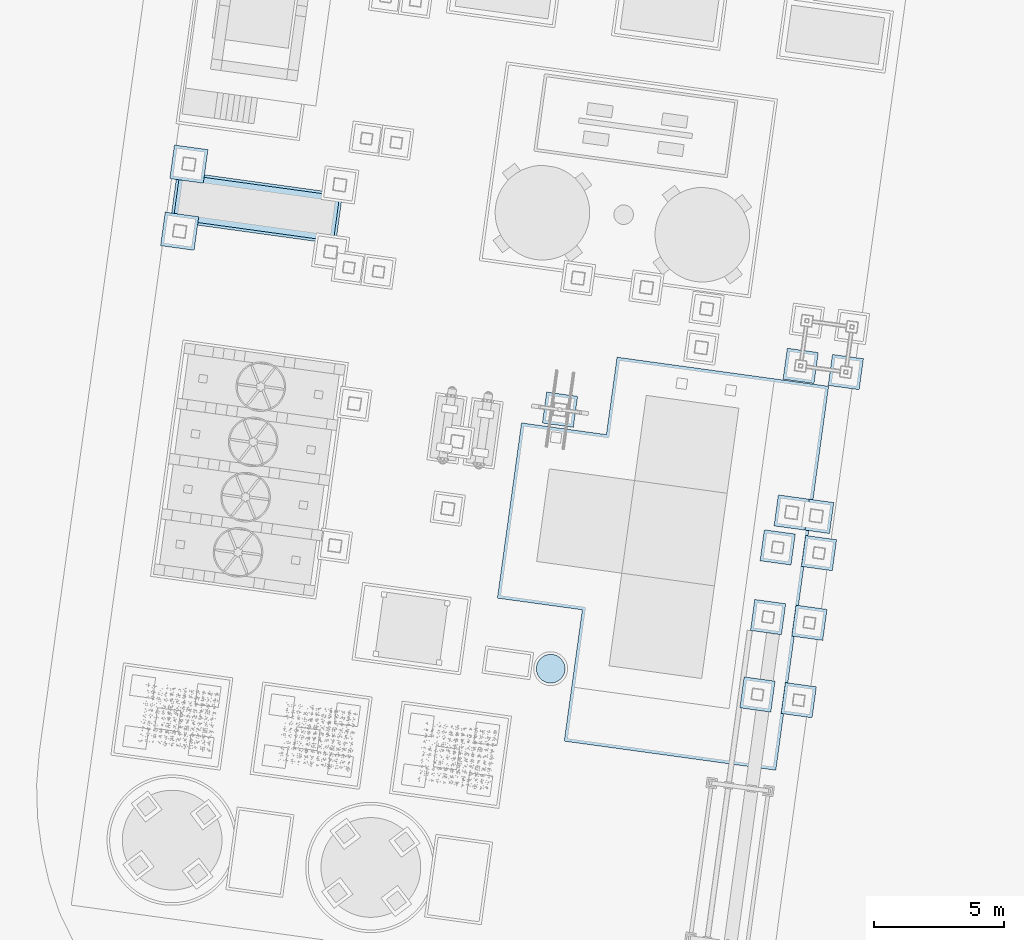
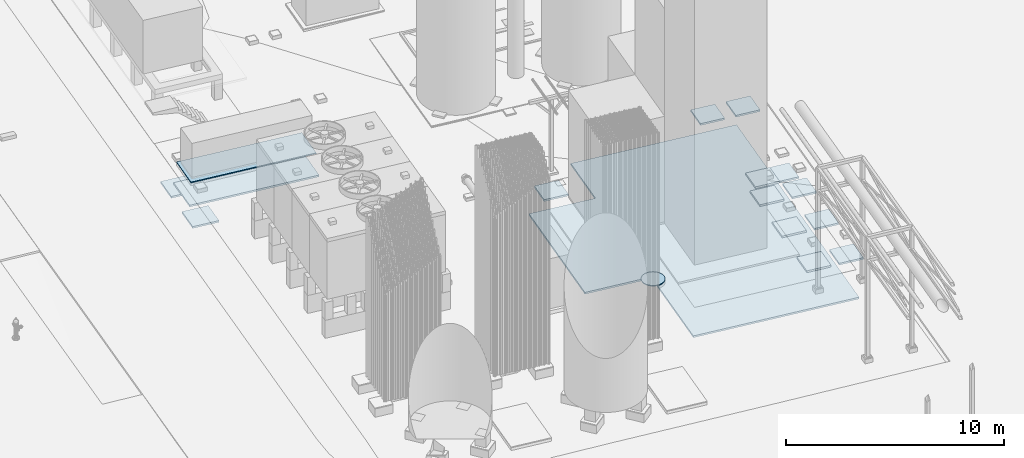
# Not in any storey, part 16 of 75: 17 slabs.
"""IFC4 model written with IfcOpenShell, lengths in metres."""

from ifc_helpers import new_model, si_unit, direction, origin, origin_with_axes, place, context, subcontext, project, spatial, triangles, material, element, save


model = new_model("IFC4")

# Units and contexts
model_context = context("Model", 3, precision=1e-05, world=origin_with_axes(), true_north=direction((0.0, 1.0)))
body_context = subcontext(model_context, "Body", "Model", "MODEL_VIEW")
ifc_project = project(units=[si_unit("AREAUNIT", "SQUARE_METRE"), si_unit("VOLUMEUNIT", "CUBIC_METRE"), si_unit("LENGTHUNIT", "METRE")], contexts=[model_context])

# Site
site_placement = place(None, origin_with_axes())
site = spatial("IfcSite", under=ifc_project, at=site_placement, Name="Parcela industrial Jinhong")

# Slabs
ifc_material_1 = material(Name="Hormigón de limpieza HA-20", Category="Material documentado")
slab_1_placement = place(None, origin())
element("IfcSlab", 1, at=slab_1_placement, inside=site, material=ifc_material_1, Name="Cimentación de las cajas frías · capa de limpieza", ObjectType="Cimentación industrial", PredefinedType="USERDEFINED", context=body_context, shape_type="Tessellation", body=[
    triangles([(52.123171, 41.356737, -0.5), (48.863831, 41.804848, -0.5), (49.788656, 48.53157, -0.5), (53.047996, 48.083459, -0.5), (53.456608, 51.055502, -0.5), (61.58019, 49.93863, -0.5), (59.553476, 35.197299, -0.5), (51.429893, 36.314171, -0.5), (52.123171, 41.356737, -0.4), (48.863831, 41.804848, -0.4), (49.788656, 48.53157, -0.4), (53.047996, 48.083459, -0.4), (53.456608, 51.055502, -0.4), (61.58019, 49.93863, -0.4), (59.553476, 35.197299, -0.4), (51.429893, 36.314171, -0.4)], [[1, 2, 3], [4, 5, 6], [1, 7, 8], [1, 3, 4], [7, 1, 6], [1, 4, 6], [11, 10, 9], [14, 13, 12], [16, 15, 9], [12, 11, 9], [14, 9, 15], [14, 12, 9], [9, 10, 1], [1, 10, 2], [10, 11, 2], [2, 11, 3], [11, 12, 3], [3, 12, 4], [12, 13, 4], [4, 13, 5], [13, 14, 5], [5, 14, 6], [14, 15, 6], [6, 15, 7], [16, 9, 8], [8, 9, 1], [15, 16, 7], [7, 16, 8]], closed=True),
])
ifc_material_2 = material(Name="Mortero HA-35 de alta resistencia sin retracción", Category="Material documentado")
slab_2_placement = place(None, origin())
element("IfcSlab", 2, at=slab_2_placement, inside=site, material=ifc_material_2, Name="Cimentación del evaporador de residuos · apoyo circular · mortero superior de 50 mm", ObjectType="Cimentación industrial", PredefinedType="USERDEFINED", context=body_context, shape_type="Tessellation", body=[
    triangles([(51.451135, 39.003477, 1.25), (51.447812, 38.985789, 1.25), (51.443912, 38.968218, 1.25), (51.428794, 38.916405, 1.25), (51.439438, 38.950785, 1.25), (51.434398, 38.933508, 1.25), (51.422634, 38.899494, 1.25), (51.400882, 38.850096, 1.25), (51.415923, 38.882793, 1.25), (51.40867, 38.866322, 1.25), (51.383734, 38.818453, 1.25), (51.392567, 38.834134, 1.25), (51.364554, 38.787999, 1.25), (51.374394, 38.803069, 1.25), (51.354226, 38.773258, 1.25), (51.343423, 38.758863, 1.25), (51.332154, 38.74483, 1.25), (51.320431, 38.731174, 1.25), (51.308268, 38.717908, 1.25), (51.295678, 38.705047, 1.25), (51.282673, 38.692604, 1.25), (51.269269, 38.680594, 1.25), (51.255479, 38.66903, 1.25), (51.211943, 38.637126, 1.25), (51.241317, 38.657922, 1.25), (51.2268, 38.647283, 1.25), (51.165488, 38.609643, 1.25), (51.196761, 38.62746, 1.25), (51.18127, 38.618295, 1.25), (51.116566, 38.586846, 1.25), (51.149432, 38.601511, 1.25), (51.133119, 38.593909, 1.25), (51.048309, 38.564111, 1.25), (51.099789, 38.580327, 1.25), (51.082808, 38.574361, 1.25), (51.065643, 38.568953, 1.25), (51.013211, 38.556139, 1.25), (51.030825, 38.559838, 1.25), (50.977668, 38.55048, 1.25), (50.995486, 38.553018, 1.25), (50.94183, 38.547158, 1.25), (50.959777, 38.548525, 1.25), (50.851959, 38.549143, 1.25), (50.92385, 38.546378, 1.25), (50.887859, 38.546584, 1.25), (50.905853, 38.546186, 1.25), (50.869888, 38.54757, 1.25), (50.834092, 38.551302, 1.25), (50.816304, 38.554045, 1.25), (50.798616, 38.557368, 1.25), (50.781045, 38.561269, 1.25), (50.763612, 38.565742, 1.25), (50.746334, 38.570783, 1.25), (50.662923, 38.604299, 1.25), (50.712321, 38.582547, 1.25), (50.69562, 38.589257, 1.25), (50.679148, 38.59651, 1.25), (50.63128, 38.621446, 1.25), (50.646961, 38.612613, 1.25), (50.586086, 38.650954, 1.25), (50.615896, 38.630787, 1.25), (50.600825, 38.640626, 1.25), (50.544, 38.684749, 1.25), (50.571691, 38.661758, 1.25), (50.557657, 38.673027, 1.25), (50.530735, 38.696912, 1.25), (50.493422, 38.735912, 1.25), (50.517873, 38.709502, 1.25), (50.505431, 38.722507, 1.25), (50.470749, 38.763864, 1.25), (50.481856, 38.749702, 1.25), (50.449953, 38.793238, 1.25), (50.46011, 38.778381, 1.25), (50.42247, 38.839692, 1.25), (50.440286, 38.80842, 1.25), (50.431122, 38.823911, 1.25), (50.414338, 38.855748, 1.25), (50.406737, 38.872062, 1.25), (50.387188, 38.922372, 1.25), (50.399673, 38.888615, 1.25), (50.393154, 38.905391, 1.25), (50.376938, 38.956873, 1.25), (50.365846, 39.009695, 1.25), (50.381781, 38.939538, 1.25), (50.368966, 38.99197, 1.25), (50.372664, 38.974356, 1.25), (50.359985, 39.06335, 1.25), (50.363307, 39.027513, 1.25), (50.361352, 39.045405, 1.25), (50.36413, 39.171089, 1.25), (50.359204, 39.081331, 1.25), (50.35941, 39.117321, 1.25), (50.359013, 39.099328, 1.25), (50.360396, 39.135292, 1.25), (50.36197, 39.153221, 1.25), (50.370195, 39.206565, 1.25), (50.366872, 39.188877, 1.25), (50.374096, 39.224135, 1.25), (50.378569, 39.241569, 1.25), (50.38361, 39.258846, 1.25), (50.402085, 39.30956, 1.25), (50.389214, 39.275949, 1.25), (50.395373, 39.29286, 1.25), (51.217182, 39.551727, 1.25), (50.606065, 39.555228, 1.25), (50.434273, 39.373901, 1.25), (50.417125, 39.342257, 1.25), (50.42544, 39.35822, 1.25), (50.409338, 39.326032, 1.25), (50.443614, 39.389285, 1.25), (50.474585, 39.433489, 1.25), (50.453454, 39.404355, 1.25), (50.463781, 39.419096, 1.25), (50.485854, 39.447523, 1.25), (50.497576, 39.46118, 1.25), (50.509739, 39.474446, 1.25), (50.522329, 39.487307, 1.25), (50.535334, 39.49975, 1.25), (50.57669, 39.534432, 1.25), (50.548739, 39.51176, 1.25), (50.562528, 39.523324, 1.25), (50.591208, 39.545071, 1.25), (50.636737, 39.574059, 1.25), (50.621247, 39.564894, 1.25), (50.652519, 39.582711, 1.25), (50.701443, 39.605508, 1.25), (50.668575, 39.590843, 1.25), (50.684888, 39.598445, 1.25), (50.735199, 39.617992, 1.25), (50.718219, 39.612026, 1.25), (50.769699, 39.628243, 1.25), (50.752365, 39.623401, 1.25), (50.804796, 39.636215, 1.25), (50.787182, 39.632516, 1.25), (50.840339, 39.641874, 1.25), (50.822521, 39.639335, 1.25), (50.858231, 39.643829, 1.25), (50.983916, 39.641051, 1.25), (50.894158, 39.645976, 1.25), (50.930148, 39.64577, 1.25), (50.912154, 39.646168, 1.25), (50.948119, 39.644784, 1.25), (50.966048, 39.643211, 1.25), (51.019392, 39.634985, 1.25), (51.001703, 39.638309, 1.25), (51.036962, 39.631085, 1.25), (51.054395, 39.626612, 1.25), (51.071673, 39.621571, 1.25), (51.122387, 39.603097, 1.25), (51.088776, 39.615967, 1.25), (51.105687, 39.609807, 1.25), (51.155084, 39.588055, 1.25), (51.138859, 39.595844, 1.25), (51.186728, 39.570907, 1.25), (51.171046, 39.579741, 1.25), (51.202113, 39.561567, 1.25), (51.246317, 39.530595, 1.25), (51.231923, 39.5414, 1.25), (51.274007, 39.507605, 1.25), (51.26035, 39.519327, 1.25), (51.287273, 39.495442, 1.25), (51.300134, 39.482851, 1.25), (51.312576, 39.469847, 1.25), (51.347259, 39.42849, 1.25), (51.324586, 39.456442, 1.25), (51.336151, 39.442652, 1.25), (51.377721, 39.383934, 1.25), (51.357897, 39.413973, 1.25), (51.368056, 39.399116, 1.25), (51.386885, 39.368443, 1.25), (51.395537, 39.352662, 1.25), (51.418335, 39.303738, 1.25), (51.403669, 39.336606, 1.25), (51.411271, 39.320292, 1.25), (51.424853, 39.286963, 1.25), (51.441069, 39.235481, 1.25), (51.43082, 39.269982, 1.25), (51.436227, 39.252815, 1.25), (51.449041, 39.200384, 1.25), (51.445343, 39.217998, 1.25), (51.454701, 39.164841, 1.25), (51.452162, 39.182659, 1.25), (51.456655, 39.146949, 1.25), (51.458994, 39.093026, 1.25), (51.458024, 39.129004, 1.25), (51.458804, 39.111023, 1.25), (51.456037, 39.039133, 1.25), (51.458597, 39.075033, 1.25), (51.457611, 39.057061, 1.25), (51.453878, 39.021264, 1.25), (50.729231, 38.576387, 1.25), (50.876177, 39.645196, 1.25), (51.451135, 39.003477, 1.3), (51.447812, 38.985789, 1.3), (51.443912, 38.968218, 1.3), (51.428794, 38.916405, 1.3), (51.439438, 38.950785, 1.3), (51.434398, 38.933508, 1.3), (51.422634, 38.899494, 1.3), (51.400882, 38.850096, 1.3), (51.415923, 38.882793, 1.3), (51.40867, 38.866322, 1.3), (51.383734, 38.818453, 1.3), (51.392567, 38.834134, 1.3), (51.364554, 38.787999, 1.3), (51.374394, 38.803069, 1.3), (51.354226, 38.773258, 1.3), (51.343423, 38.758863, 1.3), (51.332154, 38.74483, 1.3), (51.320431, 38.731174, 1.3), (51.308268, 38.717908, 1.3), (51.295678, 38.705047, 1.3), (51.282673, 38.692604, 1.3), (51.269269, 38.680594, 1.3), (51.255479, 38.66903, 1.3), (51.211943, 38.637126, 1.3), (51.241317, 38.657922, 1.3), (51.2268, 38.647283, 1.3), (51.165488, 38.609643, 1.3), (51.196761, 38.62746, 1.3), (51.18127, 38.618295, 1.3), (51.116566, 38.586846, 1.3), (51.149432, 38.601511, 1.3), (51.133119, 38.593909, 1.3), (51.048309, 38.564111, 1.3), (51.099789, 38.580327, 1.3), (51.082808, 38.574361, 1.3), (51.065643, 38.568953, 1.3), (51.013211, 38.556139, 1.3), (51.030825, 38.559838, 1.3), (50.977668, 38.55048, 1.3), (50.995486, 38.553018, 1.3), (50.94183, 38.547158, 1.3), (50.959777, 38.548525, 1.3), (50.851959, 38.549143, 1.3), (50.92385, 38.546378, 1.3), (50.887859, 38.546584, 1.3), (50.905853, 38.546186, 1.3), (50.869888, 38.54757, 1.3), (50.834092, 38.551302, 1.3), (50.816304, 38.554045, 1.3), (50.798616, 38.557368, 1.3), (50.781045, 38.561269, 1.3), (50.763612, 38.565742, 1.3), (50.746334, 38.570783, 1.3), (50.662923, 38.604299, 1.3), (50.712321, 38.582547, 1.3), (50.69562, 38.589257, 1.3), (50.679148, 38.59651, 1.3), (50.63128, 38.621446, 1.3), (50.646961, 38.612613, 1.3), (50.586086, 38.650954, 1.3), (50.615896, 38.630787, 1.3), (50.600825, 38.640626, 1.3), (50.544, 38.684749, 1.3), (50.571691, 38.661758, 1.3), (50.557657, 38.673027, 1.3), (50.530735, 38.696912, 1.3), (50.493422, 38.735912, 1.3), (50.517873, 38.709502, 1.3), (50.505431, 38.722507, 1.3), (50.470749, 38.763864, 1.3), (50.481856, 38.749702, 1.3), (50.449953, 38.793238, 1.3), (50.46011, 38.778381, 1.3), (50.42247, 38.839692, 1.3), (50.440286, 38.80842, 1.3), (50.431122, 38.823911, 1.3), (50.414338, 38.855748, 1.3), (50.406737, 38.872062, 1.3), (50.387188, 38.922372, 1.3), (50.399673, 38.888615, 1.3), (50.393154, 38.905391, 1.3), (50.376938, 38.956873, 1.3), (50.365846, 39.009695, 1.3), (50.381781, 38.939538, 1.3), (50.368966, 38.99197, 1.3), (50.372664, 38.974356, 1.3), (50.359985, 39.06335, 1.3), (50.363307, 39.027513, 1.3), (50.361352, 39.045405, 1.3), (50.36413, 39.171089, 1.3), (50.359204, 39.081331, 1.3), (50.35941, 39.117321, 1.3), (50.359013, 39.099328, 1.3), (50.360396, 39.135292, 1.3), (50.36197, 39.153221, 1.3), (50.370195, 39.206565, 1.3), (50.366872, 39.188877, 1.3), (50.374096, 39.224135, 1.3), (50.378569, 39.241569, 1.3), (50.38361, 39.258846, 1.3), (50.402085, 39.30956, 1.3), (50.389214, 39.275949, 1.3), (50.395373, 39.29286, 1.3), (51.217182, 39.551727, 1.3), (50.606065, 39.555228, 1.3), (50.434273, 39.373901, 1.3), (50.417125, 39.342257, 1.3), (50.42544, 39.35822, 1.3), (50.409338, 39.326032, 1.3), (50.443614, 39.389285, 1.3), (50.474585, 39.433489, 1.3), (50.453454, 39.404355, 1.3), (50.463781, 39.419096, 1.3), (50.485854, 39.447523, 1.3), (50.497576, 39.46118, 1.3), (50.509739, 39.474446, 1.3), (50.522329, 39.487307, 1.3), (50.535334, 39.49975, 1.3), (50.57669, 39.534432, 1.3), (50.548739, 39.51176, 1.3), (50.562528, 39.523324, 1.3), (50.591208, 39.545071, 1.3), (50.636737, 39.574059, 1.3), (50.621247, 39.564894, 1.3), (50.652519, 39.582711, 1.3), (50.701443, 39.605508, 1.3), (50.668575, 39.590843, 1.3), (50.684888, 39.598445, 1.3), (50.735199, 39.617992, 1.3), (50.718219, 39.612026, 1.3), (50.769699, 39.628243, 1.3), (50.752365, 39.623401, 1.3), (50.804796, 39.636215, 1.3), (50.787182, 39.632516, 1.3), (50.840339, 39.641874, 1.3), (50.822521, 39.639335, 1.3), (50.858231, 39.643829, 1.3), (50.983916, 39.641051, 1.3), (50.894158, 39.645976, 1.3), (50.930148, 39.64577, 1.3), (50.912154, 39.646168, 1.3), (50.948119, 39.644784, 1.3), (50.966048, 39.643211, 1.3), (51.019392, 39.634985, 1.3), (51.001703, 39.638309, 1.3), (51.036962, 39.631085, 1.3), (51.054395, 39.626612, 1.3), (51.071673, 39.621571, 1.3), (51.122387, 39.603097, 1.3), (51.088776, 39.615967, 1.3), (51.105687, 39.609807, 1.3), (51.155084, 39.588055, 1.3), (51.138859, 39.595844, 1.3), (51.186728, 39.570907, 1.3), (51.171046, 39.579741, 1.3), (51.202113, 39.561567, 1.3), (51.246317, 39.530595, 1.3), (51.231923, 39.5414, 1.3), (51.274007, 39.507605, 1.3), (51.26035, 39.519327, 1.3), (51.287273, 39.495442, 1.3), (51.300134, 39.482851, 1.3), (51.312576, 39.469847, 1.3), (51.347259, 39.42849, 1.3), (51.324586, 39.456442, 1.3), (51.336151, 39.442652, 1.3), (51.377721, 39.383934, 1.3), (51.357897, 39.413973, 1.3), (51.368056, 39.399116, 1.3), (51.386885, 39.368443, 1.3), (51.395537, 39.352662, 1.3), (51.418335, 39.303738, 1.3), (51.403669, 39.336606, 1.3), (51.411271, 39.320292, 1.3), (51.424853, 39.286963, 1.3), (51.441069, 39.235481, 1.3), (51.43082, 39.269982, 1.3), (51.436227, 39.252815, 1.3), (51.449041, 39.200384, 1.3), (51.445343, 39.217998, 1.3), (51.454701, 39.164841, 1.3), (51.452162, 39.182659, 1.3), (51.456655, 39.146949, 1.3), (51.458994, 39.093026, 1.3), (51.458024, 39.129004, 1.3), (51.458804, 39.111023, 1.3), (51.456037, 39.039133, 1.3), (51.458597, 39.075033, 1.3), (51.457611, 39.057061, 1.3), (51.453878, 39.021264, 1.3), (50.729231, 38.576387, 1.3), (50.876177, 39.645196, 1.3)], [[1, 2, 3], [4, 5, 6], [5, 4, 7], [8, 9, 10], [11, 8, 12], [13, 11, 14], [11, 13, 15], [15, 16, 17], [15, 18, 19], [19, 20, 21], [21, 22, 23], [24, 25, 26], [27, 24, 28], [28, 29, 27], [30, 31, 32], [33, 30, 34], [33, 35, 36], [37, 33, 38], [39, 37, 40], [41, 39, 42], [43, 44, 45], [44, 46, 45], [45, 47, 43], [43, 48, 49], [49, 50, 51], [51, 52, 53], [54, 55, 56], [54, 56, 57], [58, 54, 59], [60, 58, 61], [61, 62, 60], [63, 64, 65], [64, 63, 66], [67, 68, 69], [70, 67, 71], [72, 70, 73], [74, 72, 75], [75, 76, 74], [74, 77, 78], [79, 80, 81], [82, 83, 84], [85, 82, 86], [82, 85, 83], [87, 88, 89], [90, 91, 92], [91, 93, 92], [90, 94, 95], [96, 90, 97], [90, 96, 98], [98, 99, 100], [101, 102, 103], [104, 67, 105], [106, 107, 108], [109, 106, 110], [111, 112, 113], [105, 111, 114], [114, 115, 116], [116, 117, 118], [119, 120, 121], [105, 119, 122], [123, 105, 124], [105, 123, 125], [126, 127, 128], [129, 126, 130], [131, 129, 132], [133, 131, 134], [135, 133, 136], [133, 135, 137], [138, 139, 140], [139, 141, 140], [138, 142, 143], [144, 138, 145], [138, 144, 146], [146, 147, 148], [149, 150, 151], [152, 149, 153], [154, 152, 155], [104, 154, 156], [157, 104, 158], [159, 157, 160], [157, 159, 161], [161, 162, 163], [164, 165, 166], [167, 164, 168], [168, 169, 167], [167, 170, 171], [172, 173, 174], [171, 172, 175], [176, 177, 178], [179, 176, 180], [181, 179, 182], [179, 181, 183], [184, 185, 186], [187, 184, 188], [188, 189, 187], [187, 190, 1], [5, 1, 3], [5, 8, 11], [19, 11, 15], [18, 15, 17], [25, 19, 21], [25, 21, 23], [41, 25, 27], [30, 27, 31], [33, 34, 35], [39, 41, 37], [53, 43, 49], [43, 53, 44], [49, 51, 53], [55, 54, 191], [191, 54, 58], [58, 60, 64], [68, 67, 66], [84, 78, 79], [67, 74, 78], [80, 79, 78], [88, 84, 83], [101, 84, 88], [91, 90, 87], [94, 90, 92], [90, 98, 100], [90, 102, 101], [106, 109, 107], [111, 110, 112], [120, 116, 118], [116, 120, 119], [126, 105, 125], [126, 125, 127], [192, 131, 133], [192, 133, 137], [139, 138, 192], [142, 138, 140], [138, 146, 148], [149, 152, 150], [104, 152, 154], [161, 104, 157], [165, 161, 163], [161, 165, 164], [164, 167, 171], [172, 171, 173], [177, 176, 175], [184, 179, 183], [185, 184, 183], [184, 187, 1], [8, 5, 7], [25, 11, 19], [27, 25, 24], [41, 27, 30], [30, 33, 37], [53, 41, 44], [41, 53, 191], [191, 64, 41], [110, 84, 101], [74, 70, 72], [78, 84, 67], [101, 88, 90], [102, 90, 100], [105, 110, 111], [119, 105, 116], [104, 105, 126], [192, 129, 131], [126, 192, 138], [138, 148, 150], [150, 152, 104], [176, 164, 171], [176, 171, 175], [184, 176, 179], [5, 184, 1], [9, 8, 7], [67, 41, 64], [30, 37, 41], [64, 191, 58], [74, 67, 70], [90, 88, 87], [110, 101, 109], [105, 114, 116], [164, 104, 161], [138, 150, 104], [104, 164, 176], [11, 184, 5], [41, 67, 11], [84, 105, 67], [105, 84, 110], [192, 126, 129], [126, 138, 104], [41, 11, 25], [11, 104, 176], [67, 64, 66], [184, 11, 176], [11, 67, 104], [195, 194, 193], [198, 197, 196], [199, 196, 197], [202, 201, 200], [204, 200, 203], [206, 203, 205], [207, 205, 203], [209, 208, 207], [211, 210, 207], [213, 212, 211], [215, 214, 213], [218, 217, 216], [220, 216, 219], [219, 221, 220], [224, 223, 222], [226, 222, 225], [228, 227, 225], [230, 225, 229], [232, 229, 231], [234, 231, 233], [237, 236, 235], [237, 238, 236], [235, 239, 237], [241, 240, 235], [243, 242, 241], [245, 244, 243], [248, 247, 246], [249, 248, 246], [251, 246, 250], [253, 250, 252], [252, 254, 253], [257, 256, 255], [258, 255, 256], [261, 260, 259], [263, 259, 262], [265, 262, 264], [267, 264, 266], [266, 268, 267], [270, 269, 266], [273, 272, 271], [276, 275, 274], [278, 274, 277], [275, 277, 274], [281, 280, 279], [284, 283, 282], [284, 285, 283], [287, 286, 282], [289, 282, 288], [290, 288, 282], [292, 291, 290], [295, 294, 293], [297, 259, 296], [300, 299, 298], [302, 298, 301], [305, 304, 303], [306, 303, 297], [308, 307, 306], [310, 309, 308], [313, 312, 311], [314, 311, 297], [316, 297, 315], [317, 315, 297], [320, 319, 318], [322, 318, 321], [324, 321, 323], [326, 323, 325], [328, 325, 327], [329, 327, 325], [332, 331, 330], [332, 333, 331], [335, 334, 330], [337, 330, 336], [338, 336, 330], [340, 339, 338], [343, 342, 341], [345, 341, 344], [347, 344, 346], [348, 346, 296], [350, 296, 349], [352, 349, 351], [353, 351, 349], [355, 354, 353], [358, 357, 356], [360, 356, 359], [359, 361, 360], [363, 362, 359], [366, 365, 364], [367, 364, 363], [370, 369, 368], [372, 368, 371], [374, 371, 373], [375, 373, 371], [378, 377, 376], [380, 376, 379], [379, 381, 380], [193, 382, 379], [195, 193, 197], [203, 200, 197], [207, 203, 211], [209, 207, 210], [213, 211, 217], [215, 213, 217], [219, 217, 233], [223, 219, 222], [227, 226, 225], [229, 233, 231], [241, 235, 245], [236, 245, 235], [245, 243, 241], [383, 246, 247], [250, 246, 383], [256, 252, 250], [258, 259, 260], [271, 270, 276], [270, 266, 259], [270, 271, 272], [275, 276, 280], [280, 276, 293], [279, 282, 283], [284, 282, 286], [292, 290, 282], [293, 294, 282], [299, 301, 298], [304, 302, 303], [310, 308, 312], [311, 312, 308], [317, 297, 318], [319, 317, 318], [325, 323, 384], [329, 325, 384], [384, 330, 331], [332, 330, 334], [340, 338, 330], [342, 344, 341], [346, 344, 296], [349, 296, 353], [355, 353, 357], [356, 357, 353], [363, 359, 356], [365, 363, 364], [367, 368, 369], [375, 371, 376], [375, 376, 377], [193, 379, 376], [199, 197, 200], [211, 203, 217], [216, 217, 219], [222, 219, 233], [229, 225, 222], [236, 233, 245], [383, 245, 233], [233, 256, 383], [293, 276, 302], [264, 262, 266], [259, 276, 270], [282, 280, 293], [292, 282, 294], [303, 302, 297], [308, 297, 311], [318, 297, 296], [323, 321, 384], [330, 384, 318], [342, 340, 330], [296, 344, 342], [363, 356, 368], [367, 363, 368], [371, 368, 376], [193, 376, 197], [199, 200, 201], [256, 233, 259], [233, 229, 222], [250, 383, 256], [262, 259, 266], [279, 280, 282], [301, 293, 302], [308, 306, 297], [353, 296, 356], [296, 342, 330], [368, 356, 296], [197, 376, 203], [203, 259, 233], [259, 297, 276], [302, 276, 297], [321, 318, 384], [296, 330, 318], [217, 203, 233], [368, 296, 203], [258, 256, 259], [368, 203, 376], [296, 259, 203], [193, 194, 1], [1, 194, 2], [194, 195, 2], [2, 195, 3], [195, 197, 3], [3, 197, 5], [198, 196, 6], [6, 196, 4], [197, 198, 5], [5, 198, 6], [196, 199, 4], [4, 199, 7], [199, 201, 7], [7, 201, 9], [202, 200, 10], [10, 200, 8], [201, 202, 9], [9, 202, 10], [200, 204, 8], [8, 204, 12], [204, 203, 12], [12, 203, 11], [203, 206, 11], [11, 206, 14], [206, 205, 14], [14, 205, 13], [205, 207, 13], [13, 207, 15], [207, 208, 15], [15, 208, 16], [208, 209, 16], [16, 209, 17], [209, 210, 17], [17, 210, 18], [210, 211, 18], [18, 211, 19], [211, 212, 19], [19, 212, 20], [212, 213, 20], [20, 213, 21], [213, 214, 21], [21, 214, 22], [214, 215, 22], [22, 215, 23], [215, 217, 23], [23, 217, 25], [218, 216, 26], [26, 216, 24], [217, 218, 25], [25, 218, 26], [216, 220, 24], [24, 220, 28], [221, 219, 29], [29, 219, 27], [220, 221, 28], [28, 221, 29], [219, 223, 27], [27, 223, 31], [224, 222, 32], [32, 222, 30], [223, 224, 31], [31, 224, 32], [222, 226, 30], [30, 226, 34], [226, 227, 34], [34, 227, 35], [228, 225, 36], [36, 225, 33], [227, 228, 35], [35, 228, 36], [225, 230, 33], [33, 230, 38], [230, 229, 38], [38, 229, 37], [229, 232, 37], [37, 232, 40], [232, 231, 40], [40, 231, 39], [231, 234, 39], [39, 234, 42], [234, 233, 42], [42, 233, 41], [233, 236, 41], [41, 236, 44], [236, 238, 44], [44, 238, 46], [238, 237, 46], [46, 237, 45], [239, 235, 47], [47, 235, 43], [237, 239, 45], [45, 239, 47], [235, 240, 43], [43, 240, 48], [240, 241, 48], [48, 241, 49], [241, 242, 49], [49, 242, 50], [242, 243, 50], [50, 243, 51], [243, 244, 51], [51, 244, 52], [244, 245, 52], [52, 245, 53], [247, 248, 55], [55, 248, 56], [249, 246, 57], [57, 246, 54], [248, 249, 56], [56, 249, 57], [246, 251, 54], [54, 251, 59], [251, 250, 59], [59, 250, 58], [250, 253, 58], [58, 253, 61], [254, 252, 62], [62, 252, 60], [253, 254, 61], [61, 254, 62], [252, 256, 60], [60, 256, 64], [257, 255, 65], [65, 255, 63], [256, 257, 64], [64, 257, 65], [255, 258, 63], [63, 258, 66], [258, 260, 66], [66, 260, 68], [261, 259, 69], [69, 259, 67], [260, 261, 68], [68, 261, 69], [259, 263, 67], [67, 263, 71], [263, 262, 71], [71, 262, 70], [262, 265, 70], [70, 265, 73], [265, 264, 73], [73, 264, 72], [264, 267, 72], [72, 267, 75], [268, 266, 76], [76, 266, 74], [267, 268, 75], [75, 268, 76], [266, 269, 74], [74, 269, 77], [269, 270, 77], [77, 270, 78], [270, 272, 78], [78, 272, 80], [273, 271, 81], [81, 271, 79], [272, 273, 80], [80, 273, 81], [271, 276, 79], [79, 276, 84], [276, 274, 84], [84, 274, 82], [277, 275, 85], [85, 275, 83], [274, 278, 82], [82, 278, 86], [278, 277, 86], [86, 277, 85], [275, 280, 83], [83, 280, 88], [281, 279, 89], [89, 279, 87], [280, 281, 88], [88, 281, 89], [279, 283, 87], [87, 283, 91], [283, 285, 91], [91, 285, 93], [285, 284, 93], [93, 284, 92], [284, 286, 92], [92, 286, 94], [287, 282, 95], [95, 282, 90], [286, 287, 94], [94, 287, 95], [282, 289, 90], [90, 289, 97], [289, 288, 97], [97, 288, 96], [288, 290, 96], [96, 290, 98], [290, 291, 98], [98, 291, 99], [291, 292, 99], [99, 292, 100], [292, 294, 100], [100, 294, 102], [295, 293, 103], [103, 293, 101], [294, 295, 102], [102, 295, 103], [300, 298, 108], [108, 298, 106], [299, 300, 107], [107, 300, 108], [293, 301, 101], [101, 301, 109], [301, 299, 109], [109, 299, 107], [298, 302, 106], [106, 302, 110], [302, 304, 110], [110, 304, 112], [305, 303, 113], [113, 303, 111], [304, 305, 112], [112, 305, 113], [303, 306, 111], [111, 306, 114], [306, 307, 114], [114, 307, 115], [307, 308, 115], [115, 308, 116], [308, 309, 116], [116, 309, 117], [309, 310, 117], [117, 310, 118], [310, 312, 118], [118, 312, 120], [313, 311, 121], [121, 311, 119], [312, 313, 120], [120, 313, 121], [314, 297, 122], [122, 297, 105], [311, 314, 119], [119, 314, 122], [297, 316, 105], [105, 316, 124], [316, 315, 124], [124, 315, 123], [315, 317, 123], [123, 317, 125], [317, 319, 125], [125, 319, 127], [320, 318, 128], [128, 318, 126], [319, 320, 127], [127, 320, 128], [318, 322, 126], [126, 322, 130], [322, 321, 130], [130, 321, 129], [321, 324, 129], [129, 324, 132], [324, 323, 132], [132, 323, 131], [323, 326, 131], [131, 326, 134], [326, 325, 134], [134, 325, 133], [325, 328, 133], [133, 328, 136], [328, 327, 136], [136, 327, 135], [327, 329, 135], [135, 329, 137], [331, 333, 139], [139, 333, 141], [333, 332, 141], [141, 332, 140], [332, 334, 140], [140, 334, 142], [335, 330, 143], [143, 330, 138], [334, 335, 142], [142, 335, 143], [330, 337, 138], [138, 337, 145], [337, 336, 145], [145, 336, 144], [336, 338, 144], [144, 338, 146], [338, 339, 146], [146, 339, 147], [339, 340, 147], [147, 340, 148], [340, 342, 148], [148, 342, 150], [343, 341, 151], [151, 341, 149], [342, 343, 150], [150, 343, 151], [341, 345, 149], [149, 345, 153], [345, 344, 153], [153, 344, 152], [344, 347, 152], [152, 347, 155], [347, 346, 155], [155, 346, 154], [348, 296, 156], [156, 296, 104], [346, 348, 154], [154, 348, 156], [296, 350, 104], [104, 350, 158], [350, 349, 158], [158, 349, 157], [349, 352, 157], [157, 352, 160], [352, 351, 160], [160, 351, 159], [351, 353, 159], [159, 353, 161], [353, 354, 161], [161, 354, 162], [354, 355, 162], [162, 355, 163], [355, 357, 163], [163, 357, 165], [358, 356, 166], [166, 356, 164], [357, 358, 165], [165, 358, 166], [356, 360, 164], [164, 360, 168], [361, 359, 169], [169, 359, 167], [360, 361, 168], [168, 361, 169], [359, 362, 167], [167, 362, 170], [362, 363, 170], [170, 363, 171], [363, 365, 171], [171, 365, 173], [366, 364, 174], [174, 364, 172], [365, 366, 173], [173, 366, 174], [364, 367, 172], [172, 367, 175], [367, 369, 175], [175, 369, 177], [370, 368, 178], [178, 368, 176], [369, 370, 177], [177, 370, 178], [368, 372, 176], [176, 372, 180], [372, 371, 180], [180, 371, 179], [371, 374, 179], [179, 374, 182], [374, 373, 182], [182, 373, 181], [373, 375, 181], [181, 375, 183], [375, 377, 183], [183, 377, 185], [378, 376, 186], [186, 376, 184], [377, 378, 185], [185, 378, 186], [376, 380, 184], [184, 380, 188], [381, 379, 189], [189, 379, 187], [380, 381, 188], [188, 381, 189], [382, 193, 190], [190, 193, 1], [379, 382, 187], [187, 382, 190], [245, 383, 53], [53, 383, 191], [383, 247, 191], [191, 247, 55], [329, 384, 137], [137, 384, 192], [384, 331, 192], [192, 331, 139]], closed=True),
])
slab_3_placement = place(None, origin())
element("IfcSlab", 3, at=slab_3_placement, inside=site, material=ifc_material_1, Name="Base de bombas y dosificación · capa de limpieza", ObjectType="Cimentación industrial", PredefinedType="USERDEFINED", context=body_context, shape_type="Tessellation", body=[
    triangles([(42.91789, 57.329382, 0.0), (42.652292, 55.397554, 0.0), (36.311935, 56.26926, 0.0), (36.577532, 58.201087, 0.0), (42.91789, 57.329382, 0.1), (42.652292, 55.397554, 0.1), (36.311935, 56.26926, 0.1), (36.577532, 58.201087, 0.1)], [[1, 2, 3], [3, 4, 1], [7, 6, 5], [5, 8, 7], [5, 6, 1], [1, 6, 2], [6, 7, 2], [2, 7, 3], [8, 5, 4], [4, 5, 1], [7, 8, 3], [3, 8, 4]], closed=True),
])
slab_4_placement = place(None, origin())
element("IfcSlab", 4, at=slab_4_placement, inside=site, material=ifc_material_2, Name="Base de bombas y dosificación · mortero superior de 50 mm", ObjectType="Cimentación industrial", PredefinedType="USERDEFINED", context=body_context, shape_type="Tessellation", body=[
    triangles([(42.805201, 57.243934, 1.25), (42.566844, 55.510243, 1.25), (36.424623, 56.354707, 1.25), (36.66298, 58.088399, 1.25), (42.805201, 57.243934, 1.3), (42.566844, 55.510243, 1.3), (36.424623, 56.354707, 1.3), (36.66298, 58.088399, 1.3)], [[1, 2, 3], [3, 4, 1], [7, 6, 5], [5, 8, 7], [5, 6, 1], [1, 6, 2], [6, 7, 2], [2, 7, 3], [8, 5, 4], [4, 5, 1], [7, 8, 3], [3, 8, 4]], closed=True),
])
slab_5_placement = place(None, origin())
element("IfcSlab", 5, at=slab_5_placement, inside=site, material=ifc_material_1, Name="Cimentación de marquesina C15 · capa de limpieza", ObjectType="Cimentación industrial", PredefinedType="USERDEFINED", context=body_context, shape_type="Tessellation", body=[
    triangles([(36.285596, 57.913167, -0.5), (36.462661, 59.201052, -0.5), (37.750546, 59.023987, -0.5), (37.573481, 57.736102, -0.5), (36.285596, 57.913167, -0.4), (36.462661, 59.201052, -0.4), (37.750546, 59.023987, -0.4), (37.573481, 57.736102, -0.4)], [[1, 2, 3], [3, 4, 1], [7, 6, 5], [5, 8, 7], [5, 6, 1], [1, 6, 2], [6, 7, 2], [2, 7, 3], [8, 5, 4], [4, 5, 1], [7, 8, 3], [3, 8, 4]], closed=True),
])
slab_6_placement = place(None, origin())
element("IfcSlab", 6, at=slab_6_placement, inside=site, material=ifc_material_1, Name="Cimentación de marquesina C16 · capa de limpieza", ObjectType="Cimentación industrial", PredefinedType="USERDEFINED", context=body_context, shape_type="Tessellation", body=[
    triangles([(35.931466, 55.337397, -0.5), (36.108531, 56.625282, -0.5), (37.396416, 56.448217, -0.5), (37.219351, 55.160332, -0.5), (35.931466, 55.337397, -0.4), (36.108531, 56.625282, -0.4), (37.396416, 56.448217, -0.4), (37.219351, 55.160332, -0.4)], [[1, 2, 3], [3, 4, 1], [7, 6, 5], [5, 8, 7], [5, 6, 1], [1, 6, 2], [6, 7, 2], [2, 7, 3], [8, 5, 4], [4, 5, 1], [7, 8, 3], [3, 8, 4]], closed=True),
])
slab_7_placement = place(None, origin())
element("IfcSlab", 7, at=slab_7_placement, inside=site, material=ifc_material_1, Name="Cimentación de soporte de tuberías C27 · capa de limpieza", ObjectType="Cimentación industrial", PredefinedType="USERDEFINED", context=body_context, shape_type="Tessellation", body=[
    triangles([(59.830738, 50.209434, 0.0), (59.994183, 51.398251, 0.0), (61.183, 51.234806, 0.0), (61.019555, 50.045989, 0.0), (59.830738, 50.209434, 0.1), (59.994183, 51.398251, 0.1), (61.183, 51.234806, 0.1), (61.019555, 50.045989, 0.1)], [[1, 2, 3], [3, 4, 1], [7, 6, 5], [5, 8, 7], [5, 6, 1], [1, 6, 2], [6, 7, 2], [2, 7, 3], [8, 5, 4], [4, 5, 1], [7, 8, 3], [3, 8, 4]], closed=True),
])
slab_8_placement = place(None, origin())
element("IfcSlab", 8, at=slab_8_placement, inside=site, material=ifc_material_1, Name="Cimentación de soporte de tuberías C28 · capa de limpieza", ObjectType="Cimentación industrial", PredefinedType="USERDEFINED", context=body_context, shape_type="Tessellation", body=[
    triangles([(61.56443, 49.971077, 0.0), (61.727875, 51.159894, 0.0), (62.916692, 50.996449, 0.0), (62.753247, 49.807632, 0.0), (61.56443, 49.971077, 0.1), (61.727875, 51.159894, 0.1), (62.916692, 50.996449, 0.1), (62.753247, 49.807632, 0.1)], [[1, 2, 3], [3, 4, 1], [7, 6, 5], [5, 8, 7], [5, 6, 1], [1, 6, 2], [6, 7, 2], [2, 7, 3], [8, 5, 4], [4, 5, 1], [7, 8, 3], [3, 8, 4]], closed=True),
])
slab_9_placement = place(None, origin())
element("IfcSlab", 9, at=slab_9_placement, inside=site, material=ifc_material_1, Name="Cimentación de soporte de tuberías C33 · capa de limpieza", ObjectType="Cimentación industrial", PredefinedType="USERDEFINED", context=body_context, shape_type="Tessellation", body=[
    triangles([(50.590516, 48.527312, 0.0), (50.75396, 49.716129, 0.0), (51.942777, 49.552684, 0.0), (51.779333, 48.363867, 0.0), (50.590516, 48.527312, 0.1), (50.75396, 49.716129, 0.1), (51.942777, 49.552684, 0.1), (51.779333, 48.363867, 0.1)], [[1, 2, 3], [3, 4, 1], [7, 6, 5], [5, 8, 7], [5, 6, 1], [1, 6, 2], [6, 7, 2], [2, 7, 3], [8, 5, 4], [4, 5, 1], [7, 8, 3], [3, 8, 4]], closed=True),
])
slab_10_placement = place(None, origin())
element("IfcSlab", 10, at=slab_10_placement, inside=site, material=ifc_material_1, Name="Cimentación de soporte de tuberías C34 · capa de limpieza", ObjectType="Cimentación industrial", PredefinedType="USERDEFINED", context=body_context, shape_type="Tessellation", body=[
    triangles([(59.485631, 44.578967, 0.0), (59.649075, 45.767784, 0.0), (60.837892, 45.60434, 0.0), (60.674448, 44.415523, 0.0), (59.485631, 44.578967, 0.1), (59.649075, 45.767784, 0.1), (60.837892, 45.60434, 0.1), (60.674448, 44.415523, 0.1)], [[1, 2, 3], [3, 4, 1], [7, 6, 5], [5, 8, 7], [5, 6, 1], [1, 6, 2], [6, 7, 2], [2, 7, 3], [8, 5, 4], [4, 5, 1], [7, 8, 3], [3, 8, 4]], closed=True),
])
slab_11_placement = place(None, origin())
element("IfcSlab", 11, at=slab_11_placement, inside=site, material=ifc_material_1, Name="Cimentación de soporte de tuberías C35 · capa de limpieza", ObjectType="Cimentación industrial", PredefinedType="USERDEFINED", context=body_context, shape_type="Tessellation", body=[
    triangles([(60.426778, 44.449574, 0.0), (60.590222, 45.638391, 0.0), (61.779039, 45.474946, 0.0), (61.615595, 44.286129, 0.0), (60.426778, 44.449574, 0.1), (60.590222, 45.638391, 0.1), (61.779039, 45.474946, 0.1), (61.615595, 44.286129, 0.1)], [[1, 2, 3], [3, 4, 1], [7, 6, 5], [5, 8, 7], [5, 6, 1], [1, 6, 2], [6, 7, 2], [2, 7, 3], [8, 5, 4], [4, 5, 1], [7, 8, 3], [3, 8, 4]], closed=True),
])
slab_12_placement = place(None, origin())
element("IfcSlab", 12, at=slab_12_placement, inside=site, material=ifc_material_1, Name="Cimentación de soporte de tuberías C36 · capa de limpieza", ObjectType="Cimentación industrial", PredefinedType="USERDEFINED", context=body_context, shape_type="Tessellation", body=[
    triangles([(60.300469, 44.265058, 0.0), (58.948207, 43.239685, 0.0), (59.111652, 44.428502, 0.0), (60.137024, 43.076241, 0.0), (60.300469, 44.265058, 0.1), (58.948207, 43.239685, 0.1), (59.111652, 44.428502, 0.1), (60.137024, 43.076241, 0.1)], [[1, 2, 3], [2, 1, 4], [7, 6, 5], [8, 5, 6], [7, 5, 3], [3, 5, 1], [6, 7, 2], [2, 7, 3], [5, 8, 1], [1, 8, 4], [8, 6, 4], [4, 6, 2]], closed=True),
])
slab_13_placement = place(None, origin())
element("IfcSlab", 13, at=slab_13_placement, inside=site, material=ifc_material_1, Name="Cimentación de soporte de tuberías C37 · capa de limpieza", ObjectType="Cimentación industrial", PredefinedType="USERDEFINED", context=body_context, shape_type="Tessellation", body=[
    triangles([(60.533296, 43.021759, 0.0), (60.696741, 44.210576, 0.0), (61.885558, 44.047131, 0.0), (61.722113, 42.858315, 0.0), (60.533296, 43.021759, 0.1), (60.696741, 44.210576, 0.1), (61.885558, 44.047131, 0.1), (61.722113, 42.858315, 0.1)], [[1, 2, 3], [3, 4, 1], [7, 6, 5], [5, 8, 7], [5, 6, 1], [1, 6, 2], [6, 7, 2], [2, 7, 3], [8, 5, 4], [4, 5, 1], [7, 8, 3], [3, 8, 4]], closed=True),
])
slab_14_placement = place(None, origin())
element("IfcSlab", 14, at=slab_14_placement, inside=site, material=ifc_material_1, Name="Cimentación de soporte de tuberías C38 · capa de limpieza", ObjectType="Cimentación industrial", PredefinedType="USERDEFINED", context=body_context, shape_type="Tessellation", body=[
    triangles([(59.932718, 41.59022, 0.0), (58.580456, 40.564847, 0.0), (58.743901, 41.753664, 0.0), (59.769273, 40.401403, 0.0), (59.932718, 41.59022, 0.1), (58.580456, 40.564847, 0.1), (58.743901, 41.753664, 0.1), (59.769273, 40.401403, 0.1)], [[1, 2, 3], [2, 1, 4], [7, 6, 5], [8, 5, 6], [7, 5, 3], [3, 5, 1], [6, 7, 2], [2, 7, 3], [5, 8, 1], [1, 8, 4], [8, 6, 4], [4, 6, 2]], closed=True),
])
slab_15_placement = place(None, origin())
element("IfcSlab", 15, at=slab_15_placement, inside=site, material=ifc_material_1, Name="Cimentación de soporte de tuberías C39 · capa de limpieza", ObjectType="Cimentación industrial", PredefinedType="USERDEFINED", context=body_context, shape_type="Tessellation", body=[
    triangles([(60.165546, 40.346921, 0.0), (60.32899, 41.535738, 0.0), (61.517807, 41.372293, 0.0), (61.354363, 40.183476, 0.0), (60.165546, 40.346921, 0.1), (60.32899, 41.535738, 0.1), (61.517807, 41.372293, 0.1), (61.354363, 40.183476, 0.1)], [[1, 2, 3], [3, 4, 1], [7, 6, 5], [5, 8, 7], [5, 6, 1], [1, 6, 2], [6, 7, 2], [2, 7, 3], [8, 5, 4], [4, 5, 1], [7, 8, 3], [3, 8, 4]], closed=True),
])
slab_16_placement = place(None, origin())
element("IfcSlab", 16, at=slab_16_placement, inside=site, material=ifc_material_1, Name="Cimentación de soporte de tuberías C40 · capa de limpieza", ObjectType="Cimentación industrial", PredefinedType="USERDEFINED", context=body_context, shape_type="Tessellation", body=[
    triangles([(59.524106, 38.618177, 0.0), (58.171845, 37.592805, 0.0), (58.335289, 38.781622, 0.0), (59.360662, 37.42936, 0.0), (59.524106, 38.618177, 0.1), (58.171845, 37.592805, 0.1), (58.335289, 38.781622, 0.1), (59.360662, 37.42936, 0.1)], [[1, 2, 3], [2, 1, 4], [7, 6, 5], [8, 5, 6], [7, 5, 3], [3, 5, 1], [6, 7, 2], [2, 7, 3], [5, 8, 1], [1, 8, 4], [8, 6, 4], [4, 6, 2]], closed=True),
])
slab_17_placement = place(None, origin())
element("IfcSlab", 17, at=slab_17_placement, inside=site, material=ifc_material_1, Name="Cimentación de soporte de tuberías C41 · capa de limpieza", ObjectType="Cimentación industrial", PredefinedType="USERDEFINED", context=body_context, shape_type="Tessellation", body=[
    triangles([(59.756934, 37.374879, 0.0), (59.920379, 38.563696, 0.0), (61.109196, 38.400251, 0.0), (60.945751, 37.211434, 0.0), (59.756934, 37.374879, 0.1), (59.920379, 38.563696, 0.1), (61.109196, 38.400251, 0.1), (60.945751, 37.211434, 0.1)], [[1, 2, 3], [3, 4, 1], [7, 6, 5], [5, 8, 7], [5, 6, 1], [1, 6, 2], [6, 7, 2], [2, 7, 3], [8, 5, 4], [4, 5, 1], [7, 8, 3], [3, 8, 4]], closed=True),
])

save(model, "model.ifc")
